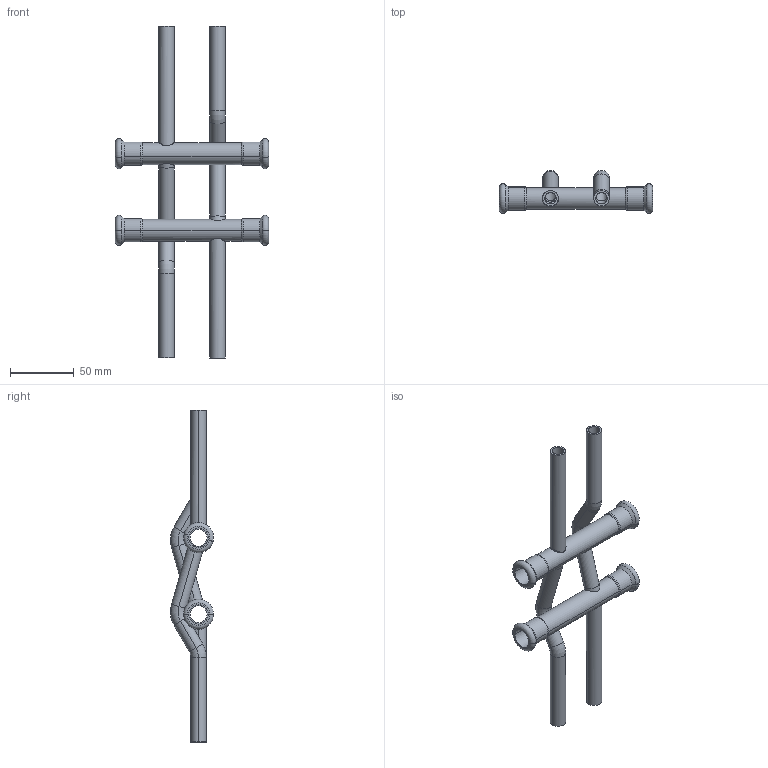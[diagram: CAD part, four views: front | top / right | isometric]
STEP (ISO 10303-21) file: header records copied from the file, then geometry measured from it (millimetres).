
FILE_DESCRIPTION(('CoCreate Modeling STEP Export'),'2;1');
FILE_NAME('C1437 12x12.stp','2015-08-13T 9:06:48',(''),(''),'CoCreate Modeling STEP processor for AP214 (Solid Model)','CoCreate Modeling 17.00A 17-Jun-2010 (C) Parametric Technology GmbH','');
FILE_SCHEMA(('AUTOMOTIVE_DESIGN { 1 0 10303 214 1 1 1 1 }'));
Length unit declared in the file: millimetre
Products named in the file (5): 620866.4.1.1.1; 620856.5.1.1.9; 620866.4.1.2; 620856.5.1.2; C1436-15x12
Assembly tree (4 placements, depth 2):
  C1436-15x12
    620856.5.1.2
    620866.4.1.2
    620856.5.1.1.9
    620866.4.1.1.1
Bounding box: 120 x 33.75 x 260 mm (x, y, z)
Volume: 45814.8 mm3; surface area: 58438.4 mm2
Topology: 4 solids, 4 shells, 146 faces, 315 edges, 189 vertices
Faces by surface type: cylinder 72, torus 32, plane 20, cone 16, bspline 6
Entity records: 10695 total; most frequent: CARTESIAN_POINT 7833, ORIENTED_EDGE 630, DIRECTION 492, EDGE_CURVE 315, AXIS2_PLACEMENT_3D 202, VERTEX_POINT 189, EDGE_LOOP 174, FACE_OUTER_BOUND 146
